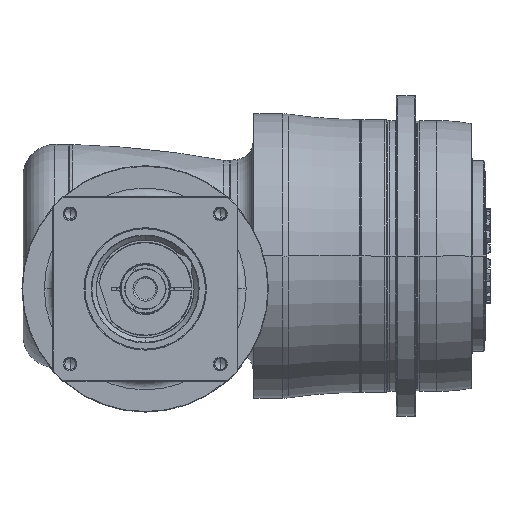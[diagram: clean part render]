
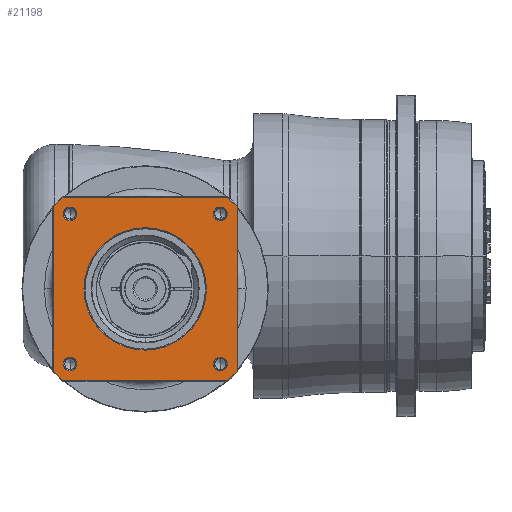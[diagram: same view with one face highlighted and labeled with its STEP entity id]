
A CAD part, front view. The second image highlights one B-rep face of the part: STEP entity #21198.
In plain terms, the highlighted planar face has unit normal (0, -1, 0) as drawn and (0, 0, 1) by its records, which use the part's own axes.
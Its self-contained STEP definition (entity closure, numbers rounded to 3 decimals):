
#19949=CARTESIAN_POINT('',(0.,0.,
76.));
#19950=DIRECTION('',(0.,0.,-1.));
#19951=DIRECTION('',(0.,-1.,0.));
#19952=AXIS2_PLACEMENT_3D('',#19949,#19950,#19951);
#19954=CARTESIAN_POINT('',(0.,0.,
76.));
#19955=DIRECTION('',(0.,0.,-1.));
#19956=DIRECTION('',(0.,1.,0.));
#19957=AXIS2_PLACEMENT_3D('',#19954,#19955,#19956);
#19959=CARTESIAN_POINT('',(0.,0.,76.));
#19960=DIRECTION('',(0.,0.,1.));
#19961=DIRECTION('',(-0.746,-0.666,0.));
#19962=AXIS2_PLACEMENT_3D('',#19959,#19960,#19961);
#19974=DIRECTION('',(1.,0.,0.));
#19975=VECTOR('',#19974,154.58);
#19976=CARTESIAN_POINT('',(-77.29,-86.5,76.));
#19977=LINE('',#19976,#19975);
#19987=CARTESIAN_POINT('',(0.,0.,76.));
#19988=DIRECTION('',(0.,0.,1.));
#19989=DIRECTION('',(0.666,-0.746,0.));
#19990=AXIS2_PLACEMENT_3D('',#19987,#19988,#19989);
#20002=DIRECTION('',(0.,1.,0.));
#20003=VECTOR('',#20002,154.58);
#20004=CARTESIAN_POINT('',(86.5,-77.29,76.));
#20005=LINE('',#20004,#20003);
#20015=CARTESIAN_POINT('',(0.,0.,76.));
#20016=DIRECTION('',(0.,0.,1.));
#20017=DIRECTION('',(0.746,0.666,0.));
#20018=AXIS2_PLACEMENT_3D('',#20015,#20016,#20017);
#20030=DIRECTION('',(-1.,0.,0.));
#20031=VECTOR('',#20030,154.58);
#20032=CARTESIAN_POINT('',(77.29,86.5,76.));
#20033=LINE('',#20032,#20031);
#20038=CARTESIAN_POINT('',(0.,0.,76.));
#20039=DIRECTION('',(0.,0.,1.));
#20040=DIRECTION('',(-0.666,0.746,0.));
#20041=AXIS2_PLACEMENT_3D('',#20038,#20039,#20040);
#20058=DIRECTION('',(0.,-1.,0.));
#20059=VECTOR('',#20058,154.58);
#20060=CARTESIAN_POINT('',(-86.5,77.29,76.));
#20061=LINE('',#20060,#20059);
#20144=CARTESIAN_POINT('',(-70.711,70.711,76.));
#20145=DIRECTION('',(0.,0.,1.));
#20146=DIRECTION('',(-1.,0.,0.));
#20147=AXIS2_PLACEMENT_3D('',#20144,#20145,#20146);
#20162=CARTESIAN_POINT('',(-70.711,70.711,76.));
#20163=DIRECTION('',(0.,0.,1.));
#20164=DIRECTION('',(1.,0.,0.));
#20165=AXIS2_PLACEMENT_3D('',#20162,#20163,#20164);
#20198=CARTESIAN_POINT('',(70.711,70.711,76.));
#20199=DIRECTION('',(0.,0.,1.));
#20200=DIRECTION('',(-1.,0.,0.));
#20201=AXIS2_PLACEMENT_3D('',#20198,#20199,#20200);
#20216=CARTESIAN_POINT('',(70.711,70.711,76.));
#20217=DIRECTION('',(0.,0.,1.));
#20218=DIRECTION('',(1.,0.,0.));
#20219=AXIS2_PLACEMENT_3D('',#20216,#20217,#20218);
#20252=CARTESIAN_POINT('',(70.711,-70.711,76.));
#20253=DIRECTION('',(0.,0.,1.));
#20254=DIRECTION('',(-1.,0.,0.));
#20255=AXIS2_PLACEMENT_3D('',#20252,#20253,#20254);
#20270=CARTESIAN_POINT('',(70.711,-70.711,76.));
#20271=DIRECTION('',(0.,0.,1.));
#20272=DIRECTION('',(1.,0.,0.));
#20273=AXIS2_PLACEMENT_3D('',#20270,#20271,#20272);
#20306=CARTESIAN_POINT('',(-70.711,-70.711,76.));
#20307=DIRECTION('',(0.,0.,1.));
#20308=DIRECTION('',(-1.,0.,0.));
#20309=AXIS2_PLACEMENT_3D('',#20306,#20307,#20308);
#20324=CARTESIAN_POINT('',(-70.711,-70.711,76.));
#20325=DIRECTION('',(0.,0.,1.));
#20326=DIRECTION('',(1.,0.,0.));
#20327=AXIS2_PLACEMENT_3D('',#20324,#20325,#20326);
#20456=CARTESIAN_POINT('',(86.5,-77.29,76.));
#20457=CARTESIAN_POINT('',(86.5,77.29,76.));
#20458=VERTEX_POINT('',#20456);
#20459=VERTEX_POINT('',#20457);
#20464=CARTESIAN_POINT('',(77.29,-86.5,76.));
#20465=VERTEX_POINT('',#20464);
#20468=CARTESIAN_POINT('',(-77.29,-86.5,76.));
#20469=VERTEX_POINT('',#20468);
#20472=CARTESIAN_POINT('',(-86.5,-77.29,76.));
#20473=VERTEX_POINT('',#20472);
#20476=CARTESIAN_POINT('',(-86.5,77.29,76.));
#20477=VERTEX_POINT('',#20476);
#20480=CARTESIAN_POINT('',(-77.29,86.5,76.));
#20481=VERTEX_POINT('',#20480);
#20484=CARTESIAN_POINT('',(77.29,86.5,76.));
#20485=VERTEX_POINT('',#20484);
#20494=CARTESIAN_POINT('',(-77.111,70.711,76.));
#20495=CARTESIAN_POINT('',(-64.311,70.711,76.));
#20496=VERTEX_POINT('',#20494);
#20497=VERTEX_POINT('',#20495);
#20520=CARTESIAN_POINT('',(77.111,70.711,76.));
#20521=CARTESIAN_POINT('',(64.311,70.711,76.));
#20522=VERTEX_POINT('',#20520);
#20523=VERTEX_POINT('',#20521);
#20528=CARTESIAN_POINT('',(77.111,-70.711,76.));
#20529=CARTESIAN_POINT('',(64.311,-70.711,76.));
#20530=VERTEX_POINT('',#20528);
#20531=VERTEX_POINT('',#20529);
#20536=CARTESIAN_POINT('',(-64.311,-70.711,76.));
#20537=CARTESIAN_POINT('',(-77.111,-70.711,76.));
#20538=VERTEX_POINT('',#20536);
#20539=VERTEX_POINT('',#20537);
#20544=CARTESIAN_POINT('',(0.,-57.65,76.));
#20545=CARTESIAN_POINT('',(0.,57.65,
76.));
#20546=VERTEX_POINT('',#20544);
#20547=VERTEX_POINT('',#20545);
#21146=CARTESIAN_POINT('',(0.,0.,76.));
#21147=DIRECTION('',(0.,0.,1.));
#21148=DIRECTION('',(1.,0.,0.));
#21149=AXIS2_PLACEMENT_3D('',#21146,#21147,#21148);
#21150=PLANE('',#21149);
#21152=ORIENTED_EDGE('',*,*,#21151,.F.);
#21154=ORIENTED_EDGE('',*,*,#21153,.F.);
#21156=ORIENTED_EDGE('',*,*,#21155,.F.);
#21158=ORIENTED_EDGE('',*,*,#21157,.F.);
#21160=ORIENTED_EDGE('',*,*,#21159,.F.);
#21162=ORIENTED_EDGE('',*,*,#21161,.F.);
#21164=ORIENTED_EDGE('',*,*,#21163,.F.);
#21166=ORIENTED_EDGE('',*,*,#21165,.F.);
#21167=EDGE_LOOP('',(#21152,#21154,#21156,#21158,#21160,#21162,#21164,#21166));
#21168=FACE_OUTER_BOUND('',#21167,.F.);
#21169=ORIENTED_EDGE('',*,*,#21136,.F.);
#21171=ORIENTED_EDGE('',*,*,#21170,.F.);
#21172=EDGE_LOOP('',(#21169,#21171));
#21173=FACE_BOUND('',#21172,.F.);
#21175=ORIENTED_EDGE('',*,*,#21174,.T.);
#21177=ORIENTED_EDGE('',*,*,#21176,.T.);
#21178=EDGE_LOOP('',(#21175,#21177));
#21179=FACE_BOUND('',#21178,.F.);
#21181=ORIENTED_EDGE('',*,*,#21180,.T.);
#21183=ORIENTED_EDGE('',*,*,#21182,.T.);
#21184=EDGE_LOOP('',(#21181,#21183));
#21185=FACE_BOUND('',#21184,.F.);
#21187=ORIENTED_EDGE('',*,*,#21186,.T.);
#21189=ORIENTED_EDGE('',*,*,#21188,.T.);
#21190=EDGE_LOOP('',(#21187,#21189));
#21191=FACE_BOUND('',#21190,.F.);
#21193=ORIENTED_EDGE('',*,*,#21192,.T.);
#21195=ORIENTED_EDGE('',*,*,#21194,.T.);
#21196=EDGE_LOOP('',(#21193,#21195));
#21197=FACE_BOUND('',#21196,.F.);
#21198=ADVANCED_FACE('',(#21168,#21173,#21179,#21185,#21191,#21197),#21150,.T.);
#19953=CIRCLE('',#19952,57.65);
#19958=CIRCLE('',#19957,57.65);
#19963=CIRCLE('',#19962,116.);
#19991=CIRCLE('',#19990,116.);
#20019=CIRCLE('',#20018,116.);
#20042=CIRCLE('',#20041,116.);
#20148=CIRCLE('',#20147,6.4);
#20166=CIRCLE('',#20165,6.4);
#20202=CIRCLE('',#20201,6.4);
#20220=CIRCLE('',#20219,6.4);
#20256=CIRCLE('',#20255,6.4);
#20274=CIRCLE('',#20273,6.4);
#20310=CIRCLE('',#20309,6.4);
#20328=CIRCLE('',#20327,6.4);
#21136=EDGE_CURVE('',#20546,#20547,#19953,.T.);
#21151=EDGE_CURVE('',#20473,#20469,#19963,.T.);
#21153=EDGE_CURVE('',#20477,#20473,#20061,.T.);
#21155=EDGE_CURVE('',#20481,#20477,#20042,.T.);
#21157=EDGE_CURVE('',#20485,#20481,#20033,.T.);
#21159=EDGE_CURVE('',#20459,#20485,#20019,.T.);
#21161=EDGE_CURVE('',#20458,#20459,#20005,.T.);
#21163=EDGE_CURVE('',#20465,#20458,#19991,.T.);
#21165=EDGE_CURVE('',#20469,#20465,#19977,.T.);
#21170=EDGE_CURVE('',#20547,#20546,#19958,.T.);
#21174=EDGE_CURVE('',#20496,#20497,#20148,.T.);
#21176=EDGE_CURVE('',#20497,#20496,#20166,.T.);
#21180=EDGE_CURVE('',#20523,#20522,#20202,.T.);
#21182=EDGE_CURVE('',#20522,#20523,#20220,.T.);
#21186=EDGE_CURVE('',#20531,#20530,#20256,.T.);
#21188=EDGE_CURVE('',#20530,#20531,#20274,.T.);
#21192=EDGE_CURVE('',#20539,#20538,#20310,.T.);
#21194=EDGE_CURVE('',#20538,#20539,#20328,.T.);
